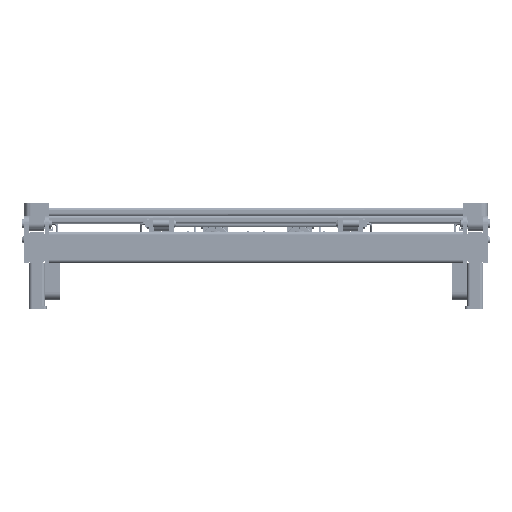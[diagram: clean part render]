
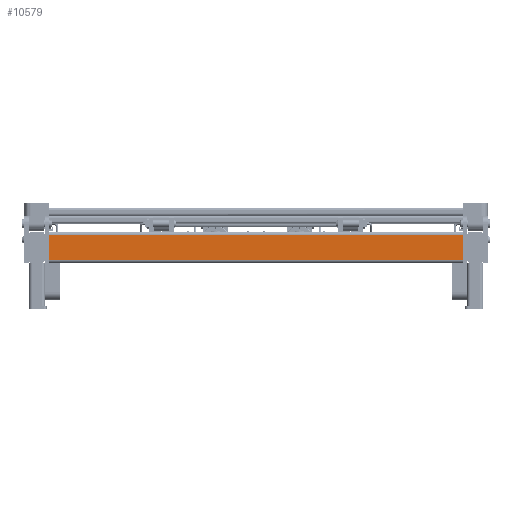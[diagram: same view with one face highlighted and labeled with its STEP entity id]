
A CAD part, front view. The second image highlights one B-rep face of the part: STEP entity #10579.
In plain terms, the highlighted planar face has unit normal (0, -1, 0) as drawn and (-1, 0, 0) by its records, which use the part's own axes.
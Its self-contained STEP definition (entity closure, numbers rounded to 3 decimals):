
#10579 = ADVANCED_FACE( '', ( #21249 ), #21250, .F. );
#21249 = FACE_OUTER_BOUND( '', #35467, .T. );
#21250 = PLANE( '', #35468 );
#35467 = EDGE_LOOP( '', ( #65771, #65772, #65773, #65774 ) );
#35468 = AXIS2_PLACEMENT_3D( '', #65775, #65776, #65777 );
#65771 = ORIENTED_EDGE( '', *, *, #90585, .T. );
#65772 = ORIENTED_EDGE( '', *, *, #81554, .F. );
#65773 = ORIENTED_EDGE( '', *, *, #80905, .F. );
#65774 = ORIENTED_EDGE( '', *, *, #85478, .T. );
#65775 = CARTESIAN_POINT( '', ( -20., 1056., -32. ) );
#65776 = DIRECTION( '', ( 1., 0., 0. ) );
#65777 = DIRECTION( '', ( 0., 0., -1. ) );
#80905 = EDGE_CURVE( '', #97926, #97913, #97928, .T. );
#81554 = EDGE_CURVE( '', #97913, #99006, #99010, .T. );
#85478 = EDGE_CURVE( '', #97926, #105380, #105382, .T. );
#90585 = EDGE_CURVE( '', #105380, #99006, #112512, .T. );
#97913 = VERTEX_POINT( '', #123959 );
#97926 = VERTEX_POINT( '', #123975 );
#97928 = LINE( '', #123977, #123978 );
#99006 = VERTEX_POINT( '', #126115 );
#99010 = LINE( '', #126120, #126121 );
#105380 = VERTEX_POINT( '', #138271 );
#105382 = LINE( '', #138273, #138274 );
#112512 = LINE( '', #153483, #153484 );
#123959 = CARTESIAN_POINT( '', ( -20., 1056., 32. ) );
#123975 = CARTESIAN_POINT( '', ( -20., 1056., -32. ) );
#123977 = CARTESIAN_POINT( '', ( -20., 1056., -32. ) );
#123978 = VECTOR( '', #160957, 1000. );
#126115 = CARTESIAN_POINT( '', ( -20., 0., 32. ) );
#126120 = CARTESIAN_POINT( '', ( -20., 1056., 32. ) );
#126121 = VECTOR( '', #161585, 1000. );
#138271 = CARTESIAN_POINT( '', ( -20., 0., -32. ) );
#138273 = CARTESIAN_POINT( '', ( -20., 1056., -32. ) );
#138274 = VECTOR( '', #166026, 1000. );
#153483 = CARTESIAN_POINT( '', ( -20., 0., -32. ) );
#153484 = VECTOR( '', #170704, 1000. );
#160957 = DIRECTION( '', ( 0., 0., 1. ) );
#161585 = DIRECTION( '', ( 0., -1., 0. ) );
#166026 = DIRECTION( '', ( 0., -1., 0. ) );
#170704 = DIRECTION( '', ( 0., 0., 1. ) );
